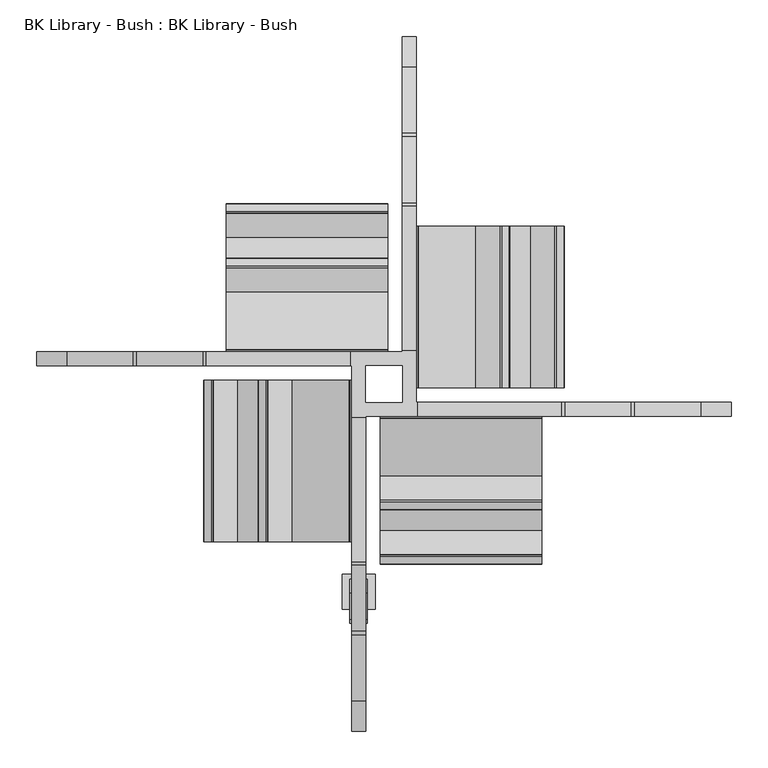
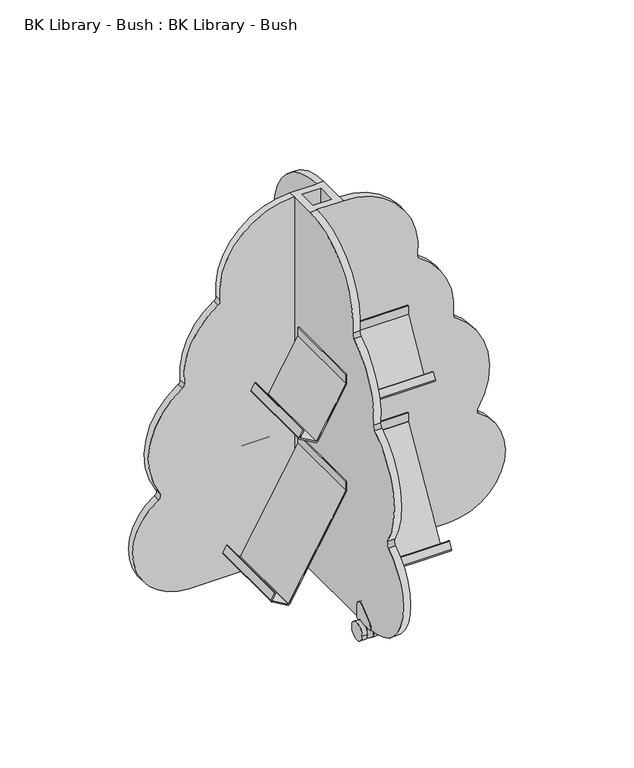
"""IFC4 building model written with IfcOpenShell, lengths in millimetres: furniture geometry, BK Library - Bush : BK Library - Bush."""

from ifc_helpers import new_model, si_unit, point, frame, frame_2d, origin, place, context, project, spatial, polyline, circle_curve, trimmed, segment, composite_curve, outline, extrude, source, transform, mapped, element, save
from ifc_brep_helpers import plane_surface, cylinder_surface, revolved_surface, advanced_brep


def bk_library_bush_bk_library_bush_ce68fd2c(model_context):
    return source(origin(), model_context, "Body", "SolidModel", [
        advanced_brep(
        [(-246.7279419, 25.0, 816.6165949), (-336.3709254, 25.0, 627.8388686), (-341.7260556, 25.0, 616.5275313), (-401.1550779, 25.0, 342.3625559), (-404.8088725, 25.0, 325.8555074), (-323.4964466, 25.0, 49.6778831), (-44.0, 25.0, 49.6778831), (-44.0, 25.0, 1048.4778831), (-45.1590152, 25.0, 1048.4778831), (-241.3623205, 25.0, 828.0592479), (-25.0, 25.0, 49.6778831), (25.0, 25.0, 49.6778831), (25.0, 25.0, 1048.4778831), (-25.0, 25.0, 1048.4778831), (-246.7279419, 44.0, 816.6165949), (-241.3623205, 44.0, 828.0592479), (-45.1590152, 44.0, 1048.4778831), (25.0, 44.0, 1048.4778831), (25.0, 44.0, 49.6778831), (-323.4964466, 44.0, 49.6778831), (-404.8088725, 44.0, 325.8555074), (-401.1550779, 44.0, 342.3625559), (-341.7260556, 44.0, 616.5275313), (-336.3709254, 44.0, 627.8388686), (25.0, 323.4964466, 49.6778831), (44.0, 323.4964466, 49.6778831), (44.0, -25.0, 49.6778831), (323.4964466, -25.0, 49.6778831), (323.4964466, -44.0, 49.6778831), (-25.0, -44.0, 49.6778831), (-25.0, -323.4964466, 49.6778831), (-44.0, -323.4964466, 49.6778831), (-25.0, -25.0, 49.6778831), (25.0, -25.0, 49.6778831), (-44.0, -45.1590152, 1048.4778831), (-25.0, -45.1590152, 1048.4778831), (-25.0, -44.0, 1048.4778831), (45.1590152, -44.0, 1048.4778831), (45.1590152, -25.0, 1048.4778831), (44.0, -25.0, 1048.4778831), (44.0, 45.1590152, 1048.4778831), (25.0, 45.1590152, 1048.4778831), (25.0, -25.0, 1048.4778831), (-25.0, -25.0, 1048.4778831), (-25.0, -246.7279419, 816.6165949), (-25.0, -336.3709254, 627.8388686), (-25.0, -341.7260556, 616.5275313), (-25.0, -401.1550779, 342.3625559), (-25.0, -404.8088725, 325.8555074), (-25.0, -241.3623205, 828.0592479), (-44.0, -246.7279419, 816.6165949), (-44.0, -241.3623205, 828.0592479), (-44.0, -404.8088725, 325.8555074), (-44.0, -401.1550779, 342.3625559), (-44.0, -341.7260556, 616.5275313), (-44.0, -336.3709254, 627.8388686), (25.0, 246.7279419, 816.6165949), (25.0, 336.3709254, 627.8388686), (25.0, 341.7260556, 616.5275313), (25.0, 401.1550779, 342.3625559), (25.0, 404.8088725, 325.8555074), (25.0, 241.3623205, 828.0592479), (44.0, 246.7279419, 816.6165949), (44.0, 241.3623205, 828.0592479), (44.0, 404.8088725, 325.8555074), (44.0, 401.1550779, 342.3625559), (44.0, 341.7260556, 616.5275313), (44.0, 336.3709254, 627.8388686), (246.7279419, -25.0, 816.6165949), (336.3709254, -25.0, 627.8388686), (341.7260556, -25.0, 616.5275313), (401.1550779, -25.0, 342.3625559), (404.8088725, -25.0, 325.8555074), (241.3623205, -25.0, 828.0592479), (246.7279419, -44.0, 816.6165949), (241.3623205, -44.0, 828.0592479), (404.8088725, -44.0, 325.8555074), (401.1550779, -44.0, 342.3625559), (341.7260556, -44.0, 616.5275313), (336.3709254, -44.0, 627.8388686)],
        [
            (0, 1, circle_curve(frame((-137.5017301, 25.0, 649.0766455), z_axis=(0.0, -1.0, 0.0), x_axis=(0.994345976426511, 0.0, 0.10618888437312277)), 200.0)),
            (1, 2, circle_curve(frame((-348.3030771, 25.0, 626.564602), z_axis=(0.0, 1.0, 0.0), x_axis=(0.994345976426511, 0.0, 0.10618888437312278)), 12.0)),
            (2, 3, circle_curve(frame((-232.1090299, 25.0, 449.2430202), z_axis=(0.0, -1.0, 0.0), x_axis=(0.994345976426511, 0.0, 0.10618888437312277)), 200.0)),
            (3, 4, circle_curve(frame((-411.2978408, 25.0, 335.9497281), z_axis=(0.0, 1.0, 0.0), x_axis=(0.994345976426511, 0.0, 0.10618888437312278)), 12.0)),
            (4, 5, circle_curve(frame((-323.6967687, 25.0, 199.6777494), z_axis=(0.0, -1.0, 0.0), x_axis=(0.994345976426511, 0.0, 0.10618888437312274)), 150.0)),
            (5, 6),
            (6, 7),
            (7, 8),
            (8, 9, circle_curve(frame((-45.1590152, 25.0, 850.9444221), z_axis=(0.0, -1.0, 0.0), x_axis=(1.0, 0.0, 0.0)), 197.533461)),
            (9, 0, circle_curve(frame((-253.2815146, 25.0, 826.6689919), z_axis=(0.0, 1.0, 0.0), x_axis=(0.994345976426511, 0.0, 0.10618888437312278)), 12.0)),
            (10, 11),
            (11, 12),
            (12, 13),
            (13, 10),
            (14, 15, circle_curve(frame((-253.2815146, 44.0, 826.6689919), z_axis=(0.0, -1.0, 0.0), x_axis=(0.994345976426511, 0.0, 0.10618888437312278)), 12.0)),
            (15, 16, circle_curve(frame((-45.1590152, 44.0, 850.9444221), z_axis=(0.0, 1.0, 0.0), x_axis=(1.0, 0.0, 0.0)), 197.533461)),
            (16, 17),
            (17, 18),
            (18, 19),
            (19, 20, circle_curve(frame((-323.6967687, 44.0, 199.6777494), z_axis=(0.0, 1.0, 0.0), x_axis=(0.994345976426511, 0.0, 0.10618888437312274)), 150.0)),
            (20, 21, circle_curve(frame((-411.2978408, 44.0, 335.9497281), z_axis=(0.0, -1.0, 0.0), x_axis=(0.994345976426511, 0.0, 0.10618888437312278)), 12.0)),
            (21, 22, circle_curve(frame((-232.1090299, 44.0, 449.2430202), z_axis=(0.0, 1.0, 0.0), x_axis=(0.994345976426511, 0.0, 0.10618888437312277)), 200.0)),
            (22, 23, circle_curve(frame((-348.3030771, 44.0, 626.564602), z_axis=(0.0, -1.0, 0.0), x_axis=(0.994345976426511, 0.0, 0.10618888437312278)), 12.0)),
            (23, 14, circle_curve(frame((-137.5017301, 44.0, 649.0766455), z_axis=(0.0, 1.0, 0.0), x_axis=(0.994345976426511, 0.0, 0.10618888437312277)), 200.0)),
            (9, 15),
            (14, 0),
            (23, 1),
            (22, 2),
            (21, 3),
            (20, 4),
            (19, 5),
            (18, 24),
            (24, 25),
            (25, 26),
            (26, 27),
            (27, 28),
            (28, 29),
            (29, 30),
            (30, 31),
            (31, 6),
            (10, 32),
            (32, 33),
            (33, 11),
            (16, 8),
            (7, 34),
            (34, 35),
            (35, 36),
            (36, 37),
            (37, 38),
            (38, 39),
            (39, 40),
            (40, 41),
            (41, 17),
            (12, 42),
            (42, 43),
            (43, 13),
            (43, 32),
            (44, 45, circle_curve(frame((-25.0, -137.5017301, 649.0766455), z_axis=(1.0, 0.0, 0.0), x_axis=(0.0, 0.994345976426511, 0.10618888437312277)), 200.0)),
            (45, 46, circle_curve(frame((-25.0, -348.3030771, 626.564602), z_axis=(-1.0, 0.0, 0.0), x_axis=(0.0, 0.994345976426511, 0.10618888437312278)), 12.0)),
            (46, 47, circle_curve(frame((-25.0, -232.1090299, 449.2430202), z_axis=(1.0, 0.0, 0.0), x_axis=(0.0, 0.994345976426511, 0.10618888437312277)), 200.0)),
            (47, 48, circle_curve(frame((-25.0, -411.2978408, 335.9497281), z_axis=(-1.0, 0.0, 0.0), x_axis=(0.0, 0.994345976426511, 0.10618888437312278)), 12.0)),
            (48, 30, circle_curve(frame((-25.0, -323.6967687, 199.6777494), z_axis=(1.0, 0.0, 0.0), x_axis=(0.0, 0.994345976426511, 0.10618888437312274)), 150.0)),
            (29, 36),
            (35, 49, circle_curve(frame((-25.0, -45.1590152, 850.9444221), z_axis=(1.0, 0.0, 0.0), x_axis=(0.0, 1.0, 0.0)), 197.533461)),
            (49, 44, circle_curve(frame((-25.0, -253.2815146, 826.6689919), z_axis=(-1.0, 0.0, 0.0), x_axis=(0.0, 0.994345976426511, 0.10618888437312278)), 12.0)),
            (50, 51, circle_curve(frame((-44.0, -253.2815146, 826.6689919), z_axis=(1.0, 0.0, 0.0), x_axis=(0.0, 0.994345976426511, 0.10618888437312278)), 12.0)),
            (51, 34, circle_curve(frame((-44.0, -45.1590152, 850.9444221), z_axis=(-1.0, 0.0, 0.0), x_axis=(0.0, 1.0, 0.0)), 197.533461)),
            (31, 52, circle_curve(frame((-44.0, -323.6967687, 199.6777494), z_axis=(-1.0, 0.0, 0.0), x_axis=(0.0, 0.994345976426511, 0.10618888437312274)), 150.0)),
            (52, 53, circle_curve(frame((-44.0, -411.2978408, 335.9497281), z_axis=(1.0, 0.0, 0.0), x_axis=(0.0, 0.994345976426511, 0.10618888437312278)), 12.0)),
            (53, 54, circle_curve(frame((-44.0, -232.1090299, 449.2430202), z_axis=(-1.0, 0.0, 0.0), x_axis=(0.0, 0.994345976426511, 0.10618888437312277)), 200.0)),
            (54, 55, circle_curve(frame((-44.0, -348.3030771, 626.564602), z_axis=(1.0, 0.0, 0.0), x_axis=(0.0, 0.994345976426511, 0.10618888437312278)), 12.0)),
            (55, 50, circle_curve(frame((-44.0, -137.5017301, 649.0766455), z_axis=(-1.0, 0.0, 0.0), x_axis=(0.0, 0.994345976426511, 0.10618888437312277)), 200.0)),
            (49, 51),
            (50, 44),
            (55, 45),
            (54, 46),
            (53, 47),
            (52, 48),
            (33, 42),
            (56, 57, circle_curve(frame((25.0, 137.5017301, 649.0766455), z_axis=(-1.0, 0.0, 0.0), x_axis=(0.0, -0.994345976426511, 0.10618888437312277)), 200.0)),
            (57, 58, circle_curve(frame((25.0, 348.3030771, 626.564602), z_axis=(1.0, 0.0, 0.0), x_axis=(0.0, -0.994345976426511, 0.10618888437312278)), 12.0)),
            (58, 59, circle_curve(frame((25.0, 232.1090299, 449.2430202), z_axis=(-1.0, 0.0, 0.0), x_axis=(0.0, -0.994345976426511, 0.10618888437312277)), 200.0)),
            (59, 60, circle_curve(frame((25.0, 411.2978408, 335.9497281), z_axis=(1.0, 0.0, 0.0), x_axis=(0.0, -0.994345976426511, 0.10618888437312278)), 12.0)),
            (60, 24, circle_curve(frame((25.0, 323.6967687, 199.6777494), z_axis=(-1.0, 0.0, 0.0), x_axis=(0.0, -0.994345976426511, 0.10618888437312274)), 150.0)),
            (41, 61, circle_curve(frame((25.0, 45.1590152, 850.9444221), z_axis=(-1.0, 0.0, 0.0), x_axis=(0.0, -1.0, 0.0)), 197.533461)),
            (61, 56, circle_curve(frame((25.0, 253.2815146, 826.6689919), z_axis=(1.0, 0.0, 0.0), x_axis=(0.0, -0.994345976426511, 0.10618888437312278)), 12.0)),
            (62, 63, circle_curve(frame((44.0, 253.2815146, 826.6689919), z_axis=(-1.0, 0.0, 0.0), x_axis=(0.0, -0.994345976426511, 0.10618888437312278)), 12.0)),
            (63, 40, circle_curve(frame((44.0, 45.1590152, 850.9444221), z_axis=(1.0, 0.0, 0.0), x_axis=(0.0, -1.0, 0.0)), 197.533461)),
            (39, 26),
            (25, 64, circle_curve(frame((44.0, 323.6967687, 199.6777494), z_axis=(1.0, 0.0, 0.0), x_axis=(0.0, -0.994345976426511, 0.10618888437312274)), 150.0)),
            (64, 65, circle_curve(frame((44.0, 411.2978408, 335.9497281), z_axis=(-1.0, 0.0, 0.0), x_axis=(0.0, -0.994345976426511, 0.10618888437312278)), 12.0)),
            (65, 66, circle_curve(frame((44.0, 232.1090299, 449.2430202), z_axis=(1.0, 0.0, 0.0), x_axis=(0.0, -0.994345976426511, 0.10618888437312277)), 200.0)),
            (66, 67, circle_curve(frame((44.0, 348.3030771, 626.564602), z_axis=(-1.0, 0.0, 0.0), x_axis=(0.0, -0.994345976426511, 0.10618888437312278)), 12.0)),
            (67, 62, circle_curve(frame((44.0, 137.5017301, 649.0766455), z_axis=(1.0, 0.0, 0.0), x_axis=(0.0, -0.994345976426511, 0.10618888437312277)), 200.0)),
            (61, 63),
            (62, 56),
            (67, 57),
            (66, 58),
            (65, 59),
            (64, 60),
            (68, 69, circle_curve(frame((137.5017301, -25.0, 649.0766455), z_axis=(0.0, 1.0, 0.0), x_axis=(-0.994345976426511, 0.0, 0.10618888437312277)), 200.0)),
            (69, 70, circle_curve(frame((348.3030771, -25.0, 626.564602), z_axis=(0.0, -1.0, 0.0), x_axis=(-0.994345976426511, 0.0, 0.10618888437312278)), 12.0)),
            (70, 71, circle_curve(frame((232.1090299, -25.0, 449.2430202), z_axis=(0.0, 1.0, 0.0), x_axis=(-0.994345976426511, 0.0, 0.10618888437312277)), 200.0)),
            (71, 72, circle_curve(frame((411.2978408, -25.0, 335.9497281), z_axis=(0.0, -1.0, 0.0), x_axis=(-0.994345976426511, 0.0, 0.10618888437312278)), 12.0)),
            (72, 27, circle_curve(frame((323.6967687, -25.0, 199.6777494), z_axis=(0.0, 1.0, 0.0), x_axis=(-0.994345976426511, 0.0, 0.10618888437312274)), 150.0)),
            (38, 73, circle_curve(frame((45.1590152, -25.0, 850.9444221), z_axis=(0.0, 1.0, 0.0), x_axis=(-1.0, 0.0, 0.0)), 197.533461)),
            (73, 68, circle_curve(frame((253.2815146, -25.0, 826.6689919), z_axis=(0.0, -1.0, 0.0), x_axis=(-0.994345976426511, 0.0, 0.10618888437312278)), 12.0)),
            (74, 75, circle_curve(frame((253.2815146, -44.0, 826.6689919), z_axis=(0.0, 1.0, 0.0), x_axis=(-0.994345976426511, 0.0, 0.10618888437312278)), 12.0)),
            (75, 37, circle_curve(frame((45.1590152, -44.0, 850.9444221), z_axis=(0.0, -1.0, 0.0), x_axis=(-1.0, 0.0, 0.0)), 197.533461)),
            (28, 76, circle_curve(frame((323.6967687, -44.0, 199.6777494), z_axis=(0.0, -1.0, 0.0), x_axis=(-0.994345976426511, 0.0, 0.10618888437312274)), 150.0)),
            (76, 77, circle_curve(frame((411.2978408, -44.0, 335.9497281), z_axis=(0.0, 1.0, 0.0), x_axis=(-0.994345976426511, 0.0, 0.10618888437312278)), 12.0)),
            (77, 78, circle_curve(frame((232.1090299, -44.0, 449.2430202), z_axis=(0.0, -1.0, 0.0), x_axis=(-0.994345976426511, 0.0, 0.10618888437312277)), 200.0)),
            (78, 79, circle_curve(frame((348.3030771, -44.0, 626.564602), z_axis=(0.0, 1.0, 0.0), x_axis=(-0.994345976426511, 0.0, 0.10618888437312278)), 12.0)),
            (79, 74, circle_curve(frame((137.5017301, -44.0, 649.0766455), z_axis=(0.0, -1.0, 0.0), x_axis=(-0.994345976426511, 0.0, 0.10618888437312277)), 200.0)),
            (73, 75),
            (74, 68),
            (79, 69),
            (78, 70),
            (77, 71),
            (76, 72),
        ],
        [
            plane_surface(frame((61.3674652, 25.0, 670.3144224), z_axis=(0.0, -1.0, 0.0), x_axis=(-0.10618888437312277, 0.0, 0.994345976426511))),
            plane_surface(frame((61.3674652, 44.0, 670.3144224), z_axis=(0.0, 1.0, 0.0), x_axis=(0.10618888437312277, 0.0, -0.994345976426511))),
            revolved_surface(polyline([(-241.34936288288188, 44.0, 827.9432585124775), (-241.34936288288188, 25.0, 827.9432585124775)]), (-253.2815146, 44.0, 826.6689919), (0.0, 1.0, 0.0)),
            cylinder_surface(frame((-137.5017301, 44.0, 649.0766455), z_axis=(0.0, -1.0, 0.0), x_axis=(0.994345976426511, 0.0, 0.10618888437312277)), 200.0),
            revolved_surface(polyline([(-336.37092538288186, 44.0, 627.8388686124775), (-336.37092538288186, 25.0, 627.8388686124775)]), (-348.3030771, 44.0, 626.564602), (0.0, 1.0, 0.0)),
            cylinder_surface(frame((-232.1090299, 44.0, 449.2430202), z_axis=(0.0, -1.0, 0.0), x_axis=(0.994345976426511, 0.0, 0.10618888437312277)), 200.0),
            revolved_surface(polyline([(-399.3656890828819, 44.0, 337.22399471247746), (-399.3656890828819, 25.0, 337.22399471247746)]), (-411.2978408, 44.0, 335.9497281), (0.0, 1.0, 0.0)),
            cylinder_surface(frame((-323.6967687, 44.0, 199.6777494), z_axis=(0.0, -1.0, 0.0), x_axis=(0.994345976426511, 0.0, 0.10618888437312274)), 150.0),
            plane_surface(frame((-323.4964466, 25.0, 49.6778831), z_axis=(0.0, 0.0, -1.0), x_axis=(0.0, 1.0, 0.0))),
            plane_surface(frame((25.0, 25.0, 1048.4778831), z_axis=(0.0, 0.0, 1.0), x_axis=(0.0, 1.0, 0.0))),
            cylinder_surface(frame((-45.1590152, 44.0, 850.9444221), z_axis=(0.0, -1.0, 0.0), x_axis=(1.0, 0.0, 0.0)), 197.533461),
            plane_surface(frame((-25.0, 61.3674652, 670.3144224), z_axis=(1.0, 0.0, 0.0), x_axis=(0.0, -0.10618888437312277, 0.994345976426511))),
            plane_surface(frame((-44.0, 61.3674652, 670.3144224), z_axis=(-1.0, 0.0, 0.0), x_axis=(0.0, 0.10618888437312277, -0.994345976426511))),
            revolved_surface(polyline([(-44.0, -241.34936288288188, 827.9432585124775), (-25.0, -241.34936288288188, 827.9432585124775)]), (-44.0, -253.2815146, 826.6689919), (-1.0, 0.0, 0.0)),
            cylinder_surface(frame((-44.0, -137.5017301, 649.0766455), z_axis=(1.0, 0.0, 0.0), x_axis=(0.0, 0.994345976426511, 0.10618888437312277)), 200.0),
            revolved_surface(polyline([(-44.0, -336.37092538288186, 627.8388686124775), (-25.0, -336.37092538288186, 627.8388686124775)]), (-44.0, -348.3030771, 626.564602), (-1.0, 0.0, 0.0)),
            cylinder_surface(frame((-44.0, -232.1090299, 449.2430202), z_axis=(1.0, 0.0, 0.0), x_axis=(0.0, 0.994345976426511, 0.10618888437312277)), 200.0),
            revolved_surface(polyline([(-44.0, -399.3656890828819, 337.22399471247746), (-25.0, -399.3656890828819, 337.22399471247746)]), (-44.0, -411.2978408, 335.9497281), (-1.0, 0.0, 0.0)),
            cylinder_surface(frame((-44.0, -323.6967687, 199.6777494), z_axis=(1.0, 0.0, 0.0), x_axis=(0.0, 0.994345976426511, 0.10618888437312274)), 150.0),
            cylinder_surface(frame((-44.0, -45.1590152, 850.9444221), z_axis=(1.0, 0.0, 0.0), x_axis=(0.0, 1.0, 0.0)), 197.533461),
            plane_surface(frame((25.0, -61.3674652, 670.3144224), z_axis=(-1.0, 0.0, 0.0), x_axis=(0.0, 0.10618888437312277, 0.994345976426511))),
            plane_surface(frame((44.0, -61.3674652, 670.3144224), z_axis=(1.0, 0.0, 0.0), x_axis=(0.0, -0.10618888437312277, -0.994345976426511))),
            revolved_surface(polyline([(44.0, 241.34936288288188, 827.9432585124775), (25.0, 241.34936288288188, 827.9432585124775)]), (44.0, 253.2815146, 826.6689919), (1.0, 0.0, 0.0)),
            cylinder_surface(frame((44.0, 137.5017301, 649.0766455), z_axis=(-1.0, 0.0, 0.0), x_axis=(0.0, -0.994345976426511, 0.10618888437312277)), 200.0),
            revolved_surface(polyline([(44.0, 336.37092538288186, 627.8388686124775), (25.0, 336.37092538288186, 627.8388686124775)]), (44.0, 348.3030771, 626.564602), (1.0, 0.0, 0.0)),
            cylinder_surface(frame((44.0, 232.1090299, 449.2430202), z_axis=(-1.0, 0.0, 0.0), x_axis=(0.0, -0.994345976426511, 0.10618888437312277)), 200.0),
            revolved_surface(polyline([(44.0, 399.3656890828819, 337.22399471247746), (25.0, 399.3656890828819, 337.22399471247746)]), (44.0, 411.2978408, 335.9497281), (1.0, 0.0, 0.0)),
            cylinder_surface(frame((44.0, 323.6967687, 199.6777494), z_axis=(-1.0, 0.0, 0.0), x_axis=(0.0, -0.994345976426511, 0.10618888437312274)), 150.0),
            cylinder_surface(frame((44.0, 45.1590152, 850.9444221), z_axis=(-1.0, 0.0, 0.0), x_axis=(0.0, -1.0, 0.0)), 197.533461),
            plane_surface(frame((-61.3674652, -25.0, 670.3144224), z_axis=(0.0, 1.0, 0.0), x_axis=(0.10618888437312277, 0.0, 0.994345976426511))),
            plane_surface(frame((-61.3674652, -44.0, 670.3144224), z_axis=(0.0, -1.0, 0.0), x_axis=(-0.10618888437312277, 0.0, -0.994345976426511))),
            revolved_surface(polyline([(241.34936288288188, -44.0, 827.9432585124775), (241.34936288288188, -25.0, 827.9432585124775)]), (253.2815146, -44.0, 826.6689919), (0.0, -1.0, 0.0)),
            cylinder_surface(frame((137.5017301, -44.0, 649.0766455), z_axis=(0.0, 1.0, 0.0), x_axis=(-0.994345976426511, 0.0, 0.10618888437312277)), 200.0),
            revolved_surface(polyline([(336.37092538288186, -44.0, 627.8388686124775), (336.37092538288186, -25.0, 627.8388686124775)]), (348.3030771, -44.0, 626.564602), (0.0, -1.0, 0.0)),
            cylinder_surface(frame((232.1090299, -44.0, 449.2430202), z_axis=(0.0, 1.0, 0.0), x_axis=(-0.994345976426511, 0.0, 0.10618888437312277)), 200.0),
            revolved_surface(polyline([(399.3656890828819, -44.0, 337.22399471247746), (399.3656890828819, -25.0, 337.22399471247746)]), (411.2978408, -44.0, 335.9497281), (0.0, -1.0, 0.0)),
            cylinder_surface(frame((323.6967687, -44.0, 199.6777494), z_axis=(0.0, 1.0, 0.0), x_axis=(-0.994345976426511, 0.0, 0.10618888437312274)), 150.0),
            cylinder_surface(frame((45.1590152, -44.0, 850.9444221), z_axis=(0.0, 1.0, 0.0), x_axis=(-1.0, 0.0, 0.0)), 197.533461),
        ],
        [
            (0, [[1, 2, 3, 4, 5, 6, 7, 8, 9, 10]]),
            (0, [[11, 12, 13, 14]]),
            (1, [[15, 16, 17, 18, 19, 20, 21, 22, 23, 24]]),
            (2, [[-10, 25, -15, 26]]),
            (3, [[-1, -26, -24, 27]]),
            (4, [[-2, -27, -23, 28]]),
            (5, [[-3, -28, -22, 29]]),
            (6, [[-4, -29, -21, 30]]),
            (7, [[-5, -30, -20, 31]]),
            (8, [[-19, 32, 33, 34, 35, 36, 37, 38, 39, 40, -6, -31], [41, 42, 43, -11]]),
            (9, [[-17, 44, -8, 45, 46, 47, 48, 49, 50, 51, 52, 53], [54, 55, 56, -13]]),
            (10, [[-9, -44, -16, -25]]),
            (11, [[-14, -56, 57, -41]]),
            (11, [[58, 59, 60, 61, 62, -38, 63, -47, 64, 65]]),
            (12, [[66, 67, -45, -7, -40, 68, 69, 70, 71, 72]]),
            (13, [[-65, 73, -66, 74]]),
            (14, [[-58, -74, -72, 75]]),
            (15, [[-59, -75, -71, 76]]),
            (16, [[-60, -76, -70, 77]]),
            (17, [[-61, -77, -69, 78]]),
            (18, [[-62, -78, -68, -39]]),
            (19, [[-64, -46, -67, -73]]),
            (20, [[-43, 79, -54, -12]]),
            (20, [[80, 81, 82, 83, 84, -32, -18, -53, 85, 86]]),
            (21, [[87, 88, -51, 89, -34, 90, 91, 92, 93, 94]]),
            (22, [[-86, 95, -87, 96]]),
            (23, [[-80, -96, -94, 97]]),
            (24, [[-81, -97, -93, 98]]),
            (25, [[-82, -98, -92, 99]]),
            (26, [[-83, -99, -91, 100]]),
            (27, [[-84, -100, -90, -33]]),
            (28, [[-85, -52, -88, -95]]),
            (29, [[-55, -79, -42, -57]]),
            (29, [[101, 102, 103, 104, 105, -35, -89, -50, 106, 107]]),
            (30, [[108, 109, -48, -63, -37, 110, 111, 112, 113, 114]]),
            (31, [[-107, 115, -108, 116]]),
            (32, [[-101, -116, -114, 117]]),
            (33, [[-102, -117, -113, 118]]),
            (34, [[-103, -118, -112, 119]]),
            (35, [[-104, -119, -111, 120]]),
            (36, [[-105, -120, -110, -36]]),
            (37, [[-106, -49, -109, -115]]),
        ],
    ),
        extrude(outline(composite_curve([segment(polyline([(-201.0980762, 105.8760334), (-244.3993464, 130.8760334)]), True, "CONTINUOUS"), segment(trimmed(circle_curve(frame_2d((-242.8993464, 133.4741096)), 3.0), [point((-244.3993464, 130.8760334))], [point((-245.4974226, 134.9741096))], False, "CARTESIAN"), True, "CONTINUOUS"), segment(polyline([(-245.4974226, 134.9741096), (-235.7474226, 151.861605)]), True, "CONTINUOUS"), segment(trimmed(circle_curve(frame_2d((-235.3144099, 151.611605)), 0.5), [point((-235.7474226, 151.861605))], [point((-235.0644099, 152.0446177))], False, "CARTESIAN"), True, "CONTINUOUS"), segment(polyline([(-235.0644099, 152.0446177), (-233.3323591, 151.0446177)]), True, "CONTINUOUS"), segment(trimmed(circle_curve(frame_2d((-233.5823591, 150.611605)), 0.5), [point((-233.3323591, 151.0446177))], [point((-233.1493464, 150.361605))], False, "CARTESIAN"), True, "CONTINUOUS"), segment(polyline([(-233.1493464, 150.361605), (-242.8993464, 133.4741096), (-200.0310889, 108.7241096)]), True, "CONTINUOUS"), segment(trimmed(circle_curve(frame_2d((-199.7810889, 109.1571223)), 0.5), [point((-200.0310889, 108.7241096))], [point((-199.3480762, 108.9071223))], True, "CARTESIAN"), True, "CONTINUOUS"), segment(polyline([(-199.3480762, 108.9071223), (-47.2009658, 372.4336477)]), True, "CONTINUOUS"), segment(trimmed(circle_curve(frame_2d((-48.5000294, 373.1836624)), 1.5000295), [point((-47.2009658, 372.4336477))], [point((-47.0, 373.1836624))], True, "CARTESIAN"), True, "CONTINUOUS"), segment(polyline([(-47.0, 373.1836624), (-47.0, 396.4778831)]), True, "CONTINUOUS"), segment(trimmed(circle_curve(frame_2d((-46.5, 396.4778831)), 0.5), [point((-47.0, 396.4778831))], [point((-46.5, 396.9778831))], False, "CARTESIAN"), True, "CONTINUOUS"), segment(polyline([(-46.5, 396.9778831), (-34.0, 396.9778831), (-34.0, 409.9778831), (-31.0, 409.9778831), (-31.0, 396.9778831)]), True, "CONTINUOUS"), segment(trimmed(circle_curve(frame_2d((-34.0, 396.9778831)), 3.0), [point((-31.0, 396.9778831))], [point((-34.0, 393.9778831))], False, "CARTESIAN"), True, "CONTINUOUS"), segment(polyline([(-34.0, 393.9778831), (-44.0, 393.9778831), (-44.0, 371.9778831), (-197.0, 106.9741096)]), True, "CONTINUOUS"), segment(trimmed(circle_curve(frame_2d((-199.5980762, 108.4741096)), 3.0), [point((-197.0, 106.9741096))], [point((-201.0980762, 105.8760334))], False, "CARTESIAN"), True, "CONTINUOUS")], self_intersect=False)), frame((-5.0, 0.0, 0.0), z_axis=(1.0, 0.0, 0.0), x_axis=(0.0, 1.0, 0.0)), (0.0, 0.0, 1.0), 220.0),
        extrude(outline(composite_curve([segment(polyline([(-126.5980762, 534.9138185), (-169.8993464, 559.9138185)]), True, "CONTINUOUS"), segment(trimmed(circle_curve(frame_2d((-168.3993464, 562.5118948)), 3.0), [point((-169.8993464, 559.9138185))], [point((-170.9974226, 564.0118948))], False, "CARTESIAN"), True, "CONTINUOUS"), segment(polyline([(-170.9974226, 564.0118948), (-161.2474226, 580.8993901)]), True, "CONTINUOUS"), segment(trimmed(circle_curve(frame_2d((-160.8144099, 580.6493901)), 0.5), [point((-161.2474226, 580.8993901))], [point((-160.5644099, 581.0824028))], False, "CARTESIAN"), True, "CONTINUOUS"), segment(polyline([(-160.5644099, 581.0824028), (-158.8323591, 580.0824028)]), True, "CONTINUOUS"), segment(trimmed(circle_curve(frame_2d((-159.0823591, 579.6493901)), 0.5), [point((-158.8323591, 580.0824028))], [point((-158.6493464, 579.3993901))], False, "CARTESIAN"), True, "CONTINUOUS"), segment(polyline([(-158.6493464, 579.3993901), (-168.3993464, 562.5118948), (-125.5310889, 537.7618948)]), True, "CONTINUOUS"), segment(trimmed(circle_curve(frame_2d((-125.2810889, 538.1949075)), 0.5), [point((-125.5310889, 537.7618948))], [point((-124.8480762, 537.9449075))], True, "CARTESIAN"), True, "CONTINUOUS"), segment(polyline([(-124.8480762, 537.9449075), (-47.2009619, 672.4336545)]), True, "CONTINUOUS"), segment(trimmed(circle_curve(frame_2d((-48.5, 673.1836545)), 1.5), [point((-47.2009619, 672.4336545))], [point((-47.0, 673.1836545))], True, "CARTESIAN"), True, "CONTINUOUS"), segment(polyline([(-47.0, 673.1836545), (-47.0, 696.4778831)]), True, "CONTINUOUS"), segment(trimmed(circle_curve(frame_2d((-46.5, 696.4778831)), 0.5), [point((-47.0, 696.4778831))], [point((-46.5, 696.9778831))], False, "CARTESIAN"), True, "CONTINUOUS"), segment(polyline([(-46.5, 696.9778831), (-34.0, 696.9778831), (-34.0, 709.9778831), (-31.0, 709.9778831), (-31.0, 696.9778831)]), True, "CONTINUOUS"), segment(trimmed(circle_curve(frame_2d((-34.0, 696.9778831)), 3.0), [point((-31.0, 696.9778831))], [point((-34.0, 693.9778831))], False, "CARTESIAN"), True, "CONTINUOUS"), segment(polyline([(-34.0, 693.9778831), (-44.0, 693.9778831), (-44.0, 671.9778831), (-122.5, 536.0118948)]), True, "CONTINUOUS"), segment(trimmed(circle_curve(frame_2d((-125.0980762, 537.5118948)), 3.0), [point((-122.5, 536.0118948))], [point((-126.5980762, 534.9138185))], False, "CARTESIAN"), True, "CONTINUOUS")], self_intersect=False)), frame((-5.0, 0.0, 0.0), z_axis=(1.0, 0.0, 0.0), x_axis=(0.0, 1.0, 0.0)), (0.0, 0.0, 1.0), 220.0),
        extrude(outline(composite_curve([segment(polyline([(105.8760334, 201.0980762), (130.8760334, 244.3993464)]), True, "CONTINUOUS"), segment(trimmed(circle_curve(frame_2d((133.4741096, 242.8993464)), 3.0), [point((130.8760334, 244.3993464))], [point((134.9741096, 245.4974226))], False, "CARTESIAN"), True, "CONTINUOUS"), segment(polyline([(134.9741096, 245.4974226), (151.861605, 235.7474226)]), True, "CONTINUOUS"), segment(trimmed(circle_curve(frame_2d((151.611605, 235.3144099)), 0.5), [point((151.861605, 235.7474226))], [point((152.0446177, 235.0644099))], False, "CARTESIAN"), True, "CONTINUOUS"), segment(polyline([(152.0446177, 235.0644099), (151.0446177, 233.3323591)]), True, "CONTINUOUS"), segment(trimmed(circle_curve(frame_2d((150.611605, 233.5823591)), 0.5), [point((151.0446177, 233.3323591))], [point((150.361605, 233.1493464))], False, "CARTESIAN"), True, "CONTINUOUS"), segment(polyline([(150.361605, 233.1493464), (133.4741096, 242.8993464), (108.7241096, 200.0310889)]), True, "CONTINUOUS"), segment(trimmed(circle_curve(frame_2d((109.1571223, 199.7810889)), 0.5), [point((108.7241096, 200.0310889))], [point((108.9071223, 199.3480762))], True, "CARTESIAN"), True, "CONTINUOUS"), segment(polyline([(108.9071223, 199.3480762), (372.4336477, 47.2009658)]), True, "CONTINUOUS"), segment(trimmed(circle_curve(frame_2d((373.1836624, 48.5000294)), 1.5000295), [point((372.4336477, 47.2009658))], [point((373.1836624, 47.0))], True, "CARTESIAN"), True, "CONTINUOUS"), segment(polyline([(373.1836624, 47.0), (396.4778831, 47.0)]), True, "CONTINUOUS"), segment(trimmed(circle_curve(frame_2d((396.4778831, 46.5)), 0.5), [point((396.4778831, 47.0))], [point((396.9778831, 46.5))], False, "CARTESIAN"), True, "CONTINUOUS"), segment(polyline([(396.9778831, 46.5), (396.9778831, 34.0), (409.9778831, 34.0), (409.9778831, 31.0), (396.9778831, 31.0)]), True, "CONTINUOUS"), segment(trimmed(circle_curve(frame_2d((396.9778831, 34.0)), 3.0), [point((396.9778831, 31.0))], [point((393.9778831, 34.0))], False, "CARTESIAN"), True, "CONTINUOUS"), segment(polyline([(393.9778831, 34.0), (393.9778831, 44.0), (371.9778831, 44.0), (106.9741096, 197.0)]), True, "CONTINUOUS"), segment(trimmed(circle_curve(frame_2d((108.4741096, 199.5980762)), 3.0), [point((106.9741096, 197.0))], [point((105.8760334, 201.0980762))], False, "CARTESIAN"), True, "CONTINUOUS")], self_intersect=False)), frame((0.0, -5.0, 0.0), z_axis=(0.0, 1.0, 0.0), x_axis=(0.0, 0.0, 1.0)), (0.0, 0.0, 1.0), 220.0),
        extrude(outline(composite_curve([segment(polyline([(534.9138185, 126.5980762), (559.9138185, 169.8993464)]), True, "CONTINUOUS"), segment(trimmed(circle_curve(frame_2d((562.5118948, 168.3993464)), 3.0), [point((559.9138185, 169.8993464))], [point((564.0118948, 170.9974226))], False, "CARTESIAN"), True, "CONTINUOUS"), segment(polyline([(564.0118948, 170.9974226), (580.8993901, 161.2474226)]), True, "CONTINUOUS"), segment(trimmed(circle_curve(frame_2d((580.6493901, 160.8144099)), 0.5), [point((580.8993901, 161.2474226))], [point((581.0824028, 160.5644099))], False, "CARTESIAN"), True, "CONTINUOUS"), segment(polyline([(581.0824028, 160.5644099), (580.0824028, 158.8323591)]), True, "CONTINUOUS"), segment(trimmed(circle_curve(frame_2d((579.6493901, 159.0823591)), 0.5), [point((580.0824028, 158.8323591))], [point((579.3993901, 158.6493464))], False, "CARTESIAN"), True, "CONTINUOUS"), segment(polyline([(579.3993901, 158.6493464), (562.5118948, 168.3993464), (537.7618948, 125.5310889)]), True, "CONTINUOUS"), segment(trimmed(circle_curve(frame_2d((538.1949075, 125.2810889)), 0.5), [point((537.7618948, 125.5310889))], [point((537.9449075, 124.8480762))], True, "CARTESIAN"), True, "CONTINUOUS"), segment(polyline([(537.9449075, 124.8480762), (672.4336545, 47.2009619)]), True, "CONTINUOUS"), segment(trimmed(circle_curve(frame_2d((673.1836545, 48.5)), 1.5), [point((672.4336545, 47.2009619))], [point((673.1836545, 47.0))], True, "CARTESIAN"), True, "CONTINUOUS"), segment(polyline([(673.1836545, 47.0), (696.4778831, 47.0)]), True, "CONTINUOUS"), segment(trimmed(circle_curve(frame_2d((696.4778831, 46.5)), 0.5), [point((696.4778831, 47.0))], [point((696.9778831, 46.5))], False, "CARTESIAN"), True, "CONTINUOUS"), segment(polyline([(696.9778831, 46.5), (696.9778831, 34.0), (709.9778831, 34.0), (709.9778831, 31.0), (696.9778831, 31.0)]), True, "CONTINUOUS"), segment(trimmed(circle_curve(frame_2d((696.9778831, 34.0)), 3.0), [point((696.9778831, 31.0))], [point((693.9778831, 34.0))], False, "CARTESIAN"), True, "CONTINUOUS"), segment(polyline([(693.9778831, 34.0), (693.9778831, 44.0), (671.9778831, 44.0), (536.0118948, 122.5)]), True, "CONTINUOUS"), segment(trimmed(circle_curve(frame_2d((537.5118948, 125.0980762)), 3.0), [point((536.0118948, 122.5))], [point((534.9138185, 126.5980762))], False, "CARTESIAN"), True, "CONTINUOUS")], self_intersect=False)), frame((0.0, -5.0, 0.0), z_axis=(0.0, 1.0, 0.0), x_axis=(0.0, 0.0, 1.0)), (0.0, 0.0, 1.0), 220.0),
        extrude(outline(composite_curve([segment(trimmed(circle_curve(frame_2d((199.5980762, 108.4741096)), 3.0), [point((201.0980762, 105.8760334))], [point((197.0, 106.9741096))], False, "CARTESIAN"), True, "CONTINUOUS"), segment(polyline([(197.0, 106.9741096), (44.0, 371.9778831), (44.0, 393.9778831), (34.0, 393.9778831)]), True, "CONTINUOUS"), segment(trimmed(circle_curve(frame_2d((34.0, 396.9778831)), 3.0), [point((34.0, 393.9778831))], [point((31.0, 396.9778831))], False, "CARTESIAN"), True, "CONTINUOUS"), segment(polyline([(31.0, 396.9778831), (31.0, 409.9778831), (34.0, 409.9778831), (34.0, 396.9778831), (46.5, 396.9778831)]), True, "CONTINUOUS"), segment(trimmed(circle_curve(frame_2d((46.5, 396.4778831)), 0.5), [point((46.5, 396.9778831))], [point((47.0, 396.4778831))], False, "CARTESIAN"), True, "CONTINUOUS"), segment(polyline([(47.0, 396.4778831), (47.0, 373.1836624)]), True, "CONTINUOUS"), segment(trimmed(circle_curve(frame_2d((48.5000294, 373.1836624)), 1.5000295), [point((47.0, 373.1836624))], [point((47.2009658, 372.4336477))], True, "CARTESIAN"), True, "CONTINUOUS"), segment(polyline([(47.2009658, 372.4336477), (199.3480762, 108.9071223)]), True, "CONTINUOUS"), segment(trimmed(circle_curve(frame_2d((199.7810889, 109.1571223)), 0.5), [point((199.3480762, 108.9071223))], [point((200.0310889, 108.7241096))], True, "CARTESIAN"), True, "CONTINUOUS"), segment(polyline([(200.0310889, 108.7241096), (242.8993464, 133.4741096), (233.1493464, 150.361605)]), True, "CONTINUOUS"), segment(trimmed(circle_curve(frame_2d((233.5823591, 150.611605)), 0.5), [point((233.1493464, 150.361605))], [point((233.3323591, 151.0446177))], False, "CARTESIAN"), True, "CONTINUOUS"), segment(polyline([(233.3323591, 151.0446177), (235.0644099, 152.0446177)]), True, "CONTINUOUS"), segment(trimmed(circle_curve(frame_2d((235.3144099, 151.611605)), 0.5), [point((235.0644099, 152.0446177))], [point((235.7474226, 151.861605))], False, "CARTESIAN"), True, "CONTINUOUS"), segment(polyline([(235.7474226, 151.861605), (245.4974226, 134.9741096)]), True, "CONTINUOUS"), segment(trimmed(circle_curve(frame_2d((242.8993464, 133.4741096)), 3.0), [point((245.4974226, 134.9741096))], [point((244.3993464, 130.8760334))], False, "CARTESIAN"), True, "CONTINUOUS"), segment(polyline([(244.3993464, 130.8760334), (201.0980762, 105.8760334)]), True, "CONTINUOUS")], self_intersect=False)), frame((-215.0, 0.0, 0.0), z_axis=(1.0, 0.0, 0.0), x_axis=(0.0, 1.0, 0.0)), (0.0, 0.0, 1.0), 220.0),
        extrude(outline(composite_curve([segment(trimmed(circle_curve(frame_2d((125.0980762, 537.5118948)), 3.0), [point((126.5980762, 534.9138185))], [point((122.5, 536.0118948))], False, "CARTESIAN"), True, "CONTINUOUS"), segment(polyline([(122.5, 536.0118948), (44.0, 671.9778831), (44.0, 693.9778831), (34.0, 693.9778831)]), True, "CONTINUOUS"), segment(trimmed(circle_curve(frame_2d((34.0, 696.9778831)), 3.0), [point((34.0, 693.9778831))], [point((31.0, 696.9778831))], False, "CARTESIAN"), True, "CONTINUOUS"), segment(polyline([(31.0, 696.9778831), (31.0, 709.9778831), (34.0, 709.9778831), (34.0, 696.9778831), (46.5, 696.9778831)]), True, "CONTINUOUS"), segment(trimmed(circle_curve(frame_2d((46.5, 696.4778831)), 0.5), [point((46.5, 696.9778831))], [point((47.0, 696.4778831))], False, "CARTESIAN"), True, "CONTINUOUS"), segment(polyline([(47.0, 696.4778831), (47.0, 673.1836545)]), True, "CONTINUOUS"), segment(trimmed(circle_curve(frame_2d((48.5, 673.1836545)), 1.5), [point((47.0, 673.1836545))], [point((47.2009619, 672.4336545))], True, "CARTESIAN"), True, "CONTINUOUS"), segment(polyline([(47.2009619, 672.4336545), (124.8480762, 537.9449075)]), True, "CONTINUOUS"), segment(trimmed(circle_curve(frame_2d((125.2810889, 538.1949075)), 0.5), [point((124.8480762, 537.9449075))], [point((125.5310889, 537.7618948))], True, "CARTESIAN"), True, "CONTINUOUS"), segment(polyline([(125.5310889, 537.7618948), (168.3993464, 562.5118948), (158.6493464, 579.3993901)]), True, "CONTINUOUS"), segment(trimmed(circle_curve(frame_2d((159.0823591, 579.6493901)), 0.5), [point((158.6493464, 579.3993901))], [point((158.8323591, 580.0824028))], False, "CARTESIAN"), True, "CONTINUOUS"), segment(polyline([(158.8323591, 580.0824028), (160.5644099, 581.0824028)]), True, "CONTINUOUS"), segment(trimmed(circle_curve(frame_2d((160.8144099, 580.6493901)), 0.5), [point((160.5644099, 581.0824028))], [point((161.2474226, 580.8993901))], False, "CARTESIAN"), True, "CONTINUOUS"), segment(polyline([(161.2474226, 580.8993901), (170.9974226, 564.0118948)]), True, "CONTINUOUS"), segment(trimmed(circle_curve(frame_2d((168.3993464, 562.5118948)), 3.0), [point((170.9974226, 564.0118948))], [point((169.8993464, 559.9138185))], False, "CARTESIAN"), True, "CONTINUOUS"), segment(polyline([(169.8993464, 559.9138185), (126.5980762, 534.9138185)]), True, "CONTINUOUS")], self_intersect=False)), frame((-215.0, 0.0, 0.0), z_axis=(1.0, 0.0, 0.0), x_axis=(0.0, 1.0, 0.0)), (0.0, 0.0, 1.0), 220.0),
        extrude(outline(composite_curve([segment(trimmed(circle_curve(frame_2d((108.4741096, -199.5980762)), 3.0), [point((105.8760334, -201.0980762))], [point((106.9741096, -197.0))], False, "CARTESIAN"), True, "CONTINUOUS"), segment(polyline([(106.9741096, -197.0), (371.9778831, -44.0), (393.9778831, -44.0), (393.9778831, -34.0)]), True, "CONTINUOUS"), segment(trimmed(circle_curve(frame_2d((396.9778831, -34.0)), 3.0), [point((393.9778831, -34.0))], [point((396.9778831, -31.0))], False, "CARTESIAN"), True, "CONTINUOUS"), segment(polyline([(396.9778831, -31.0), (409.9778831, -31.0), (409.9778831, -34.0), (396.9778831, -34.0), (396.9778831, -46.5)]), True, "CONTINUOUS"), segment(trimmed(circle_curve(frame_2d((396.4778831, -46.5)), 0.5), [point((396.9778831, -46.5))], [point((396.4778831, -47.0))], False, "CARTESIAN"), True, "CONTINUOUS"), segment(polyline([(396.4778831, -47.0), (373.1836624, -47.0)]), True, "CONTINUOUS"), segment(trimmed(circle_curve(frame_2d((373.1836624, -48.5000294)), 1.5000295), [point((373.1836624, -47.0))], [point((372.4336477, -47.2009658))], True, "CARTESIAN"), True, "CONTINUOUS"), segment(polyline([(372.4336477, -47.2009658), (108.9071223, -199.3480762)]), True, "CONTINUOUS"), segment(trimmed(circle_curve(frame_2d((109.1571223, -199.7810889)), 0.5), [point((108.9071223, -199.3480762))], [point((108.7241096, -200.0310889))], True, "CARTESIAN"), True, "CONTINUOUS"), segment(polyline([(108.7241096, -200.0310889), (133.4741096, -242.8993464), (150.361605, -233.1493464)]), True, "CONTINUOUS"), segment(trimmed(circle_curve(frame_2d((150.611605, -233.5823591)), 0.5), [point((150.361605, -233.1493464))], [point((151.0446177, -233.3323591))], False, "CARTESIAN"), True, "CONTINUOUS"), segment(polyline([(151.0446177, -233.3323591), (152.0446177, -235.0644099)]), True, "CONTINUOUS"), segment(trimmed(circle_curve(frame_2d((151.611605, -235.3144099)), 0.5), [point((152.0446177, -235.0644099))], [point((151.861605, -235.7474226))], False, "CARTESIAN"), True, "CONTINUOUS"), segment(polyline([(151.861605, -235.7474226), (134.9741096, -245.4974226)]), True, "CONTINUOUS"), segment(trimmed(circle_curve(frame_2d((133.4741096, -242.8993464)), 3.0), [point((134.9741096, -245.4974226))], [point((130.8760334, -244.3993464))], False, "CARTESIAN"), True, "CONTINUOUS"), segment(polyline([(130.8760334, -244.3993464), (105.8760334, -201.0980762)]), True, "CONTINUOUS")], self_intersect=False)), frame((0.0, -215.0, 0.0), z_axis=(0.0, 1.0, 0.0), x_axis=(0.0, 0.0, 1.0)), (0.0, 0.0, 1.0), 220.0),
        extrude(outline(composite_curve([segment(trimmed(circle_curve(frame_2d((537.5118948, -125.0980762)), 3.0), [point((534.9138185, -126.5980762))], [point((536.0118948, -122.5))], False, "CARTESIAN"), True, "CONTINUOUS"), segment(polyline([(536.0118948, -122.5), (671.9778831, -44.0), (693.9778831, -44.0), (693.9778831, -34.0)]), True, "CONTINUOUS"), segment(trimmed(circle_curve(frame_2d((696.9778831, -34.0)), 3.0), [point((693.9778831, -34.0))], [point((696.9778831, -31.0))], False, "CARTESIAN"), True, "CONTINUOUS"), segment(polyline([(696.9778831, -31.0), (709.9778831, -31.0), (709.9778831, -34.0), (696.9778831, -34.0), (696.9778831, -46.5)]), True, "CONTINUOUS"), segment(trimmed(circle_curve(frame_2d((696.4778831, -46.5)), 0.5), [point((696.9778831, -46.5))], [point((696.4778831, -47.0))], False, "CARTESIAN"), True, "CONTINUOUS"), segment(polyline([(696.4778831, -47.0), (673.1836545, -47.0)]), True, "CONTINUOUS"), segment(trimmed(circle_curve(frame_2d((673.1836545, -48.5)), 1.5), [point((673.1836545, -47.0))], [point((672.4336545, -47.2009619))], True, "CARTESIAN"), True, "CONTINUOUS"), segment(polyline([(672.4336545, -47.2009619), (537.9449075, -124.8480762)]), True, "CONTINUOUS"), segment(trimmed(circle_curve(frame_2d((538.1949075, -125.2810889)), 0.5), [point((537.9449075, -124.8480762))], [point((537.7618948, -125.5310889))], True, "CARTESIAN"), True, "CONTINUOUS"), segment(polyline([(537.7618948, -125.5310889), (562.5118948, -168.3993464), (579.3993901, -158.6493464)]), True, "CONTINUOUS"), segment(trimmed(circle_curve(frame_2d((579.6493901, -159.0823591)), 0.5), [point((579.3993901, -158.6493464))], [point((580.0824028, -158.8323591))], False, "CARTESIAN"), True, "CONTINUOUS"), segment(polyline([(580.0824028, -158.8323591), (581.0824028, -160.5644099)]), True, "CONTINUOUS"), segment(trimmed(circle_curve(frame_2d((580.6493901, -160.8144099)), 0.5), [point((581.0824028, -160.5644099))], [point((580.8993901, -161.2474226))], False, "CARTESIAN"), True, "CONTINUOUS"), segment(polyline([(580.8993901, -161.2474226), (564.0118948, -170.9974226)]), True, "CONTINUOUS"), segment(trimmed(circle_curve(frame_2d((562.5118948, -168.3993464)), 3.0), [point((564.0118948, -170.9974226))], [point((559.9138185, -169.8993464))], False, "CARTESIAN"), True, "CONTINUOUS"), segment(polyline([(559.9138185, -169.8993464), (534.9138185, -126.5980762)]), True, "CONTINUOUS")], self_intersect=False)), frame((0.0, -215.0, 0.0), z_axis=(0.0, 1.0, 0.0), x_axis=(0.0, 0.0, 1.0)), (0.0, 0.0, 1.0), 220.0),
        advanced_brep(
        [(-12.0, -307.0845713, 24.0), (-12.0, -261.0097125, 14.5818999), (-12.0, -259.0845713, 24.0), (-12.0, -279.1656621, 47.6778831), (-25.5, -307.0845713, 24.0), (-25.5, -279.1656621, 47.6778831), (-25.5, -259.0845713, 24.0), (-25.5, -261.0097125, 14.5818999)],
        [
            (0, 1, circle_curve(frame((-12.0, -283.0845713, 24.0), z_axis=(1.0, 0.0, 0.0), x_axis=(0.0, 1.0, 0.0)), 24.0)),
            (1, 2, circle_curve(frame((-12.0, -283.0845713, 24.0), z_axis=(1.0, 0.0, 0.0), x_axis=(0.0, 1.0, 0.0)), 24.0)),
            (2, 3, circle_curve(frame((-12.0, -283.0845713, 24.0), z_axis=(1.0, 0.0, 0.0), x_axis=(0.0, 1.0, 0.0)), 24.0)),
            (3, 0, circle_curve(frame((-12.0, -283.0845713, 24.0), z_axis=(1.0, 0.0, 0.0), x_axis=(0.0, 1.0, 0.0)), 24.0)),
            (4, 5, circle_curve(frame((-25.5, -283.0845713, 24.0), z_axis=(-1.0, 0.0, 0.0), x_axis=(0.0, 1.0, 0.0)), 24.0)),
            (5, 6, circle_curve(frame((-25.5, -283.0845713, 24.0), z_axis=(-1.0, 0.0, 0.0), x_axis=(0.0, 1.0, 0.0)), 24.0)),
            (6, 7, circle_curve(frame((-25.5, -283.0845713, 24.0), z_axis=(-1.0, 0.0, 0.0), x_axis=(0.0, 1.0, 0.0)), 24.0)),
            (7, 4, circle_curve(frame((-25.5, -283.0845713, 24.0), z_axis=(-1.0, 0.0, 0.0), x_axis=(0.0, 1.0, 0.0)), 24.0)),
            (0, 4),
            (6, 2),
        ],
        [
            plane_surface(frame((-12.0, -259.0845713, 24.0), z_axis=(1.0, 0.0, 0.0), x_axis=(0.0, 0.0, 1.0))),
            plane_surface(frame((-25.5, -259.0845713, 24.0), z_axis=(-1.0, 0.0, 0.0), x_axis=(0.0, 0.0, -1.0))),
            cylinder_surface(frame((-25.5, -283.0845713, 24.0), z_axis=(1.0, 0.0, 0.0), x_axis=(0.0, 1.0, 0.0)), 24.0),
        ],
        [
            (0, [[1, 2, 3, 4]]),
            (1, [[5, 6, 7, 8]]),
            (2, [[9, -8, -7, 10, -2, -1]]),
            (2, [[-9, -4, -3, -10, -6, -5]]),
        ],
    ),
        advanced_brep(
        [(-43.5, -307.0845713, 24.0), (-43.5, -261.0097125, 14.5818999), (-43.5, -259.0845713, 24.0), (-43.5, -279.1656621, 47.6778831), (-57.0, -307.0845713, 24.0), (-57.0, -279.1656621, 47.6778831), (-57.0, -259.0845713, 24.0), (-57.0, -261.0097125, 14.5818999)],
        [
            (0, 1, circle_curve(frame((-43.5, -283.0845713, 24.0), z_axis=(1.0, 0.0, 0.0), x_axis=(0.0, 1.0, 0.0)), 24.0)),
            (1, 2, circle_curve(frame((-43.5, -283.0845713, 24.0), z_axis=(1.0, 0.0, 0.0), x_axis=(0.0, 1.0, 0.0)), 24.0)),
            (2, 3, circle_curve(frame((-43.5, -283.0845713, 24.0), z_axis=(1.0, 0.0, 0.0), x_axis=(0.0, 1.0, 0.0)), 24.0)),
            (3, 0, circle_curve(frame((-43.5, -283.0845713, 24.0), z_axis=(1.0, 0.0, 0.0), x_axis=(0.0, 1.0, 0.0)), 24.0)),
            (4, 5, circle_curve(frame((-57.0, -283.0845713, 24.0), z_axis=(-1.0, 0.0, 0.0), x_axis=(0.0, 1.0, 0.0)), 24.0)),
            (5, 6, circle_curve(frame((-57.0, -283.0845713, 24.0), z_axis=(-1.0, 0.0, 0.0), x_axis=(0.0, 1.0, 0.0)), 24.0)),
            (6, 7, circle_curve(frame((-57.0, -283.0845713, 24.0), z_axis=(-1.0, 0.0, 0.0), x_axis=(0.0, 1.0, 0.0)), 24.0)),
            (7, 4, circle_curve(frame((-57.0, -283.0845713, 24.0), z_axis=(-1.0, 0.0, 0.0), x_axis=(0.0, 1.0, 0.0)), 24.0)),
            (0, 4),
            (6, 2),
        ],
        [
            plane_surface(frame((-43.5, -259.0845713, 24.0), z_axis=(1.0, 0.0, 0.0), x_axis=(0.0, 0.0, 1.0))),
            plane_surface(frame((-57.0, -259.0845713, 24.0), z_axis=(-1.0, 0.0, 0.0), x_axis=(0.0, 0.0, -1.0))),
            cylinder_surface(frame((-57.0, -283.0845713, 24.0), z_axis=(1.0, 0.0, 0.0), x_axis=(0.0, 1.0, 0.0)), 24.0),
        ],
        [
            (0, [[1, 2, 3, 4]]),
            (1, [[5, 6, 7, 8]]),
            (2, [[9, -8, -7, 10, -2, -1]]),
            (2, [[-9, -4, -3, -10, -6, -5]]),
        ],
    ),
        advanced_brep(
        [(-43.5, -304.4456511, 47.6778831), (-43.125, -305.4378078, 47.6778831), (-25.875, -305.4378078, 47.6778831), (-25.5, -304.4456511, 47.6778831), (-25.5, -279.1656621, 47.6778831), (-43.5, -279.1656621, 47.6778831), (-25.5, -304.4456511, 14.5818999), (-25.875, -305.4378078, 14.5818999), (-43.125, -305.4378078, 14.5818999), (-43.5, -304.4456511, 14.5818999), (-43.5, -261.0097125, 14.5818999), (-25.5, -261.0097125, 14.5818999)],
        [
            (0, 1, circle_curve(frame((-42.0, -304.4456511, 47.6778831), z_axis=(0.0, 0.0, 1.0), x_axis=(0.0, 1.0, 0.0)), 1.5)),
            (1, 2, circle_curve(frame((-34.5, -297.8312728, 47.6778831), z_axis=(0.0, 0.0, 1.0), x_axis=(-0.14388530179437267, 0.989594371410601, 0.0)), 11.5)),
            (2, 3, circle_curve(frame((-27.0, -304.4456511, 47.6778831), z_axis=(0.0, 0.0, 1.0), x_axis=(0.0, 1.0, 0.0)), 1.5)),
            (3, 4),
            (4, 5),
            (5, 0),
            (6, 7, circle_curve(frame((-27.0, -304.4456511, 14.5818999), z_axis=(0.0, 0.0, -1.0), x_axis=(0.0, 1.0, 0.0)), 1.5)),
            (7, 8, circle_curve(frame((-34.5, -297.8312728, 14.5818999), z_axis=(0.0, 0.0, -1.0), x_axis=(-0.14388530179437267, 0.989594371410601, 0.0)), 11.5)),
            (8, 9, circle_curve(frame((-42.0, -304.4456511, 14.5818999), z_axis=(0.0, 0.0, -1.0), x_axis=(0.0, 1.0, 0.0)), 1.5)),
            (9, 10),
            (10, 11),
            (11, 6),
            (9, 0),
            (5, 10, circle_curve(frame((-43.5, -283.0845713, 24.0), z_axis=(-1.0, 0.0, 0.0), x_axis=(0.0, 1.0, 0.0)), 24.0)),
            (1, 8),
            (7, 2),
            (3, 6),
            (11, 4, circle_curve(frame((-25.5, -283.0845713, 24.0), z_axis=(1.0, 0.0, 0.0), x_axis=(0.0, 1.0, 0.0)), 24.0)),
        ],
        [
            plane_surface(frame((-43.5, -304.9901834, 47.6778831), z_axis=(0.0, 0.0, 1.0), x_axis=(0.0, -1.0, 0.0))),
            plane_surface(frame((-43.5, -304.9901834, 14.5818999), z_axis=(0.0, 0.0, -1.0), x_axis=(0.0, 1.0, 0.0))),
            plane_surface(frame((-43.5, -258.3703709, 47.6778831), z_axis=(-1.0, 0.0, 0.0), x_axis=(0.0, 0.0, -1.0))),
            cylinder_surface(frame((-34.5, -297.8312728, 14.5818999), z_axis=(0.0, 0.0, 1.0000000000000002), x_axis=(-0.14388530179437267, 0.989594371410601, 0.0)), 11.5),
            plane_surface(frame((-25.5, -304.4456511, 47.6778831), z_axis=(1.0, 0.0, 0.0), x_axis=(0.0, 0.0, -1.0))),
            cylinder_surface(frame((-42.0, -304.4456511, 14.5818999), z_axis=(0.0, 0.0, 1.0), x_axis=(0.0, 1.0, 0.0)), 1.5),
            cylinder_surface(frame((-27.0, -304.4456511, 14.5818999), z_axis=(0.0, 0.0, 1.0), x_axis=(0.0, 1.0, 0.0)), 1.5),
            cylinder_surface(frame((-97.270464, -283.0845713, 24.0), z_axis=(-1.0, 0.0, 0.0), x_axis=(0.0, 1.0, 0.0)), 24.0),
        ],
        [
            (0, [[1, 2, 3, 4, 5, 6]]),
            (1, [[7, 8, 9, 10, 11, 12]]),
            (2, [[13, -6, 14, -10]]),
            (3, [[-2, 15, -8, 16]]),
            (4, [[17, -12, 18, -4]]),
            (5, [[-1, -13, -9, -15]]),
            (6, [[-3, -16, -7, -17]]),
            (7, [[-5, -18, -11, -14]]),
        ],
    ),
        advanced_brep(
        [(-23.0, -321.3539823, 65.3227941), (-23.0, -326.0, 55.5979035), (-23.0, -325.9997219, 47.6778831), (-23.0, -279.1656621, 47.6778831), (-23.0, -266.0, 47.6778831), (-23.0, -266.0, 86.3778831), (-23.0, -284.4, 95.1687875), (-46.5, -321.3539823, 65.3227941), (-46.5, -284.4, 95.1687875), (-46.5, -266.0, 86.3778831), (-46.5, -266.0, 47.6778831), (-46.5, -279.1656621, 47.6778831), (-46.5, -325.9997219, 47.6778831), (-46.5, -326.0, 55.5979035)],
        [
            (0, 1, circle_curve(frame((-23.0, -313.5, 55.5983424), z_axis=(1.0, 0.0, 0.0), x_axis=(0.0, 0.999999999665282, 2.587346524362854e-05)), 12.5)),
            (1, 2),
            (2, 3),
            (3, 4),
            (4, 5),
            (5, 6, circle_curve(frame((-23.0, -277.3, 86.3778831), z_axis=(1.0, 0.0, 0.0), x_axis=(0.0, 0.999999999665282, 2.5873465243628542e-05)), 11.3)),
            (6, 0),
            (7, 8),
            (8, 9, circle_curve(frame((-46.5, -277.3, 86.3778831), z_axis=(-1.0, 0.0, 0.0), x_axis=(0.0, 0.999999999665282, 2.5873465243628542e-05)), 11.3)),
            (9, 10),
            (10, 11),
            (11, 12),
            (12, 13),
            (13, 7, circle_curve(frame((-46.5, -313.5, 55.5983424), z_axis=(-1.0, 0.0, 0.0), x_axis=(0.0, 0.999999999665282, 2.587346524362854e-05)), 12.5)),
            (0, 7),
            (13, 1),
            (12, 2),
            (10, 4),
            (9, 5),
            (8, 6),
        ],
        [
            plane_surface(frame((-23.0, -301.0, 55.5986658), z_axis=(1.0000000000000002, 0.0, 0.0), x_axis=(0.0, -2.5873465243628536e-05, 0.999999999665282))),
            plane_surface(frame((-46.5, -301.0, 55.5986658), z_axis=(-1.0000000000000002, 0.0, 0.0), x_axis=(0.0, 2.5873465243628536e-05, -0.999999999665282))),
            cylinder_surface(frame((-46.5, -313.5, 55.5983424), z_axis=(1.0000000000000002, 0.0, 0.0), x_axis=(0.0, 0.999999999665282, 2.587346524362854e-05)), 12.5),
            plane_surface(frame((-23.0, -326.0, 55.5979035), z_axis=(0.0, -0.9999999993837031, -3.510831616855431e-05), x_axis=(-1.0, 0.0, 0.0))),
            plane_surface(frame((-23.0, -325.9997219, 47.6778831), z_axis=(0.0, 0.0, -1.0), x_axis=(-1.0, 0.0, 0.0))),
            plane_surface(frame((-23.0, -266.0, 47.6778831), z_axis=(0.0, 1.0, 0.0), x_axis=(-1.0, 0.0, 0.0))),
            cylinder_surface(frame((-46.5, -277.3, 86.3778831), z_axis=(1.0000000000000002, 0.0, 0.0), x_axis=(0.0, 0.999999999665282, 2.5873465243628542e-05)), 11.3),
            plane_surface(frame((-23.0, -284.4, 95.1687875), z_axis=(0.0, -0.6283185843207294, 0.7779561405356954), x_axis=(-1.0, 0.0, 0.0))),
        ],
        [
            (0, [[1, 2, 3, 4, 5, 6, 7]]),
            (1, [[8, 9, 10, 11, 12, 13, 14]]),
            (2, [[-1, 15, -14, 16]]),
            (3, [[-2, -16, -13, 17]]),
            (4, [[-17, -12, -11, 18, -4, -3]]),
            (5, [[-5, -18, -10, 19]]),
            (6, [[-6, -19, -9, 20]]),
            (7, [[-7, -20, -8, -15]]),
        ],
    ),
    ])


if __name__ == "__main__":
    model = new_model("IFC4")
    model_context = context("Model", 3, world=origin())
    ifc_project = project(units=[si_unit("LENGTHUNIT", "METRE", prefix="MILLI")], contexts=[model_context])
    site = spatial("IfcSite", under=ifc_project)
    building = spatial("IfcBuilding", under=site)
    placement = place(None, origin())
    bk_library_bush_bk_library_bush_shape = bk_library_bush_bk_library_bush_ce68fd2c(model_context)
    element("IfcFurniture", 1, ObjectType="BK Library - Bush : BK Library - Bush", at=placement, inside=building, context=model_context, shape_type="MappedRepresentation", body=[
        mapped(bk_library_bush_bk_library_bush_shape, transform((0.0, 0.0, 0.0), x_axis=(1.0, 0.0, 0.0), y_axis=(0.0, 1.0, 0.0), z_axis=(0.0, 0.0, 1.0))),
    ])
    save(model, "model.ifc")
